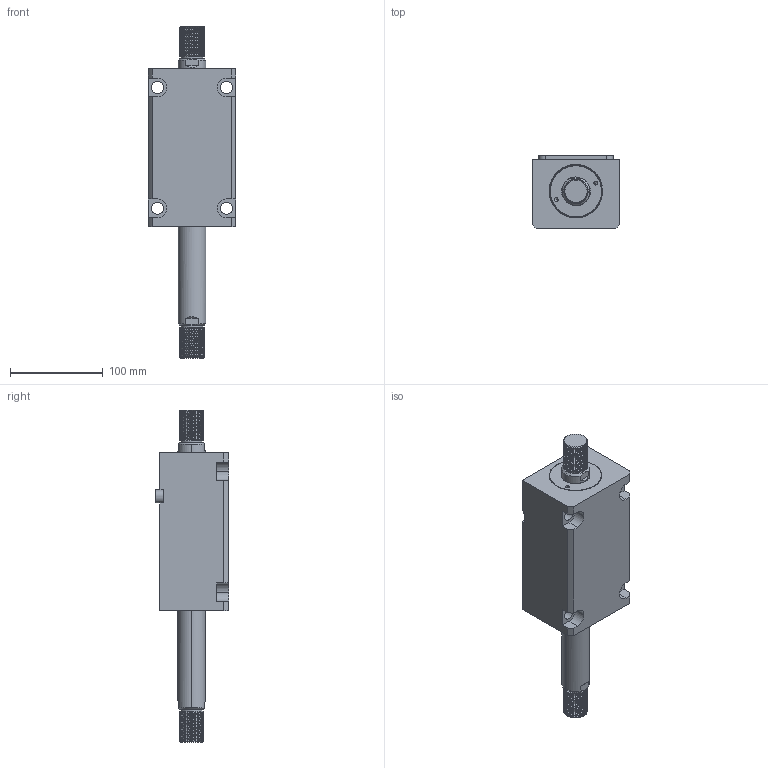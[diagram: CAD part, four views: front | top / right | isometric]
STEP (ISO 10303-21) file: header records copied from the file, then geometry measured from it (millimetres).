
FILE_DESCRIPTION (( 'STEP AP203' ), '1' );
FILE_NAME ('CHTB-LWM50-95W.STEP', '2018-05-22T06:25:00', ( '' ), ( '' ), 'SwSTEP 2.0', 'SolidWorks 2015', '' );
FILE_SCHEMA (( 'CONFIG_CONTROL_DESIGN' ));
Length unit declared in the file: millimetre
Products named in the file (4): CHTM-SDMA50QG; CHTB-LWM50-95W; 掛极LWM50-95W; 活塞杆LWM50-95W
Assembly tree (3 placements, depth 2):
  CHTB-LWM50-95W
    掛极LWM50-95W
    活塞杆LWM50-95W
    CHTM-SDMA50QG
Bounding box: 94 x 79 x 357 mm (x, y, z)
Volume: 1125561.3 mm3; surface area: 164054.9 mm2
Topology: 3 solids, 3 shells, 302 faces, 837 edges, 557 vertices
Faces by surface type: cylinder 188, plane 62, cone 18, bspline 18, torus 16
Entity records: 19248 total; most frequent: CARTESIAN_POINT 11864, ORIENTED_EDGE 1666, DIRECTION 1265, EDGE_CURVE 833, VERTEX_POINT 557, AXIS2_PLACEMENT_3D 483, EDGE_LOOP 338, ADVANCED_FACE 302
